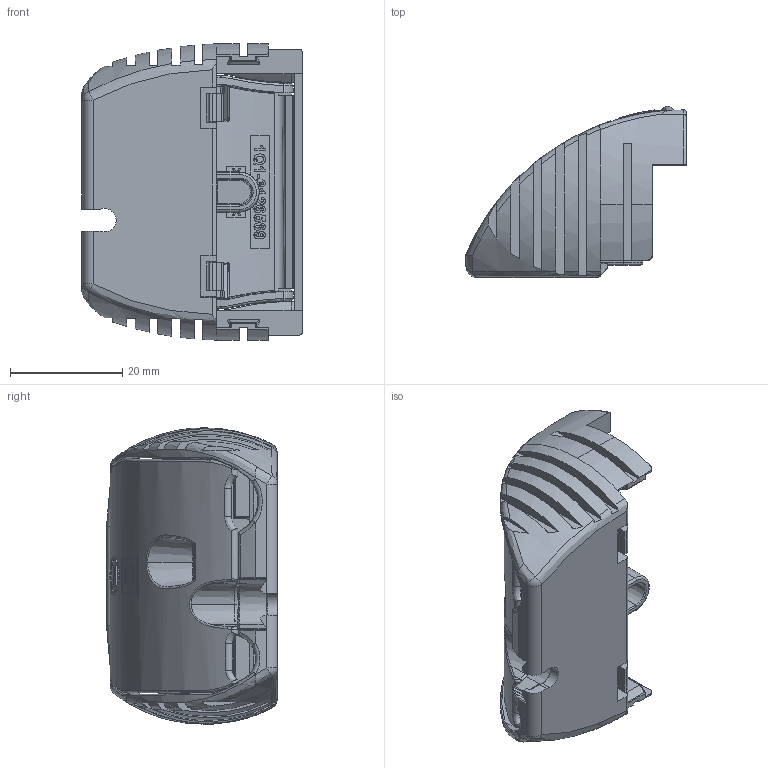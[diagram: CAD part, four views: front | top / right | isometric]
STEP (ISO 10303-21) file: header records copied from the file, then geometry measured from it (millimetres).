
FILE_DESCRIPTION (( 'STEP AP214' ), '1' );
FILE_NAME ('OT-CableClamp-F-Style_CADexport.STEP', '2015-10-20T15:22:28', ( '' ), ( '' ), 'SwSTEP 2.0', 'SolidWorks 2012', '' );
FILE_SCHEMA (( 'AUTOMOTIVE_DESIGN' ));
Length unit declared in the file: millimetre
Products named in the file (3): 1Q1-3126569-EN-01; 1Q1-3126567-EN-01; OT-CableClamp-F-Style_CADexport
Assembly tree (2 placements, depth 2):
  OT-CableClamp-F-Style_CADexport
    1Q1-3126567-EN-01
    1Q1-3126569-EN-01
Bounding box: 39.2 x 30.45 x 52.78 mm (x, y, z)
Volume: 12361.1 mm3; surface area: 15590.7 mm2
Topology: 2 solids, 4 shells, 1540 faces, 4109 edges, 2562 vertices
Faces by surface type: bspline 521, plane 514, cylinder 321, sphere 75, cone 58, torus 51
Entity records: 66617 total; most frequent: CARTESIAN_POINT 33834, ORIENTED_EDGE 8064, DIRECTION 5021, EDGE_CURVE 4032, VERTEX_POINT 2550, AXIS2_PLACEMENT_3D 1715, EDGE_LOOP 1598, LINE 1591
